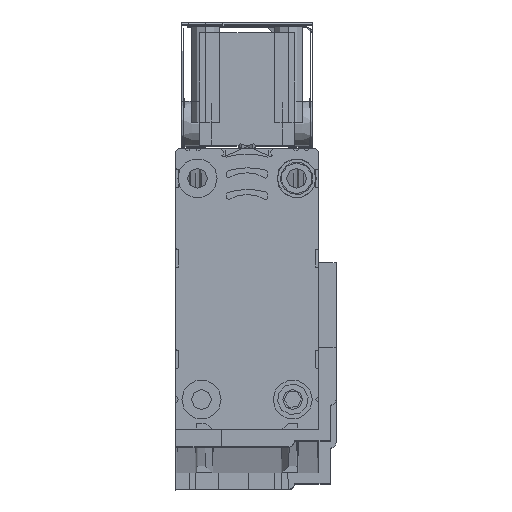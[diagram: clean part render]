
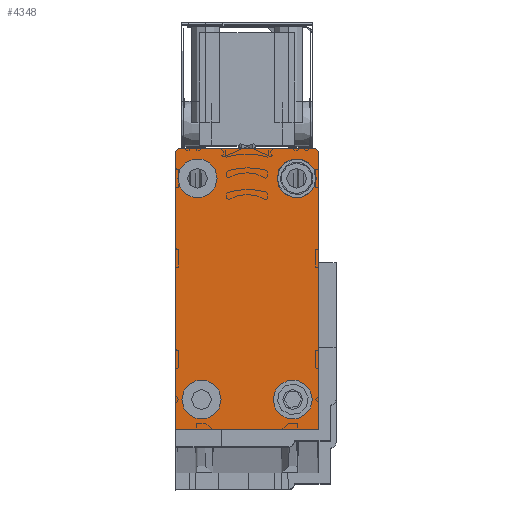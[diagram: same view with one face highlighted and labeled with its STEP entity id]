
A CAD part, top view. The second image highlights one B-rep face of the part: STEP entity #4348.
In plain terms, the highlighted planar face has unit normal (0, 0, 1).
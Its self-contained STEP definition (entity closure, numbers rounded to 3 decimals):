
#41 = ORIENTED_EDGE ( 'NONE', *, *, #3014, .T. ) ;
#96 = DIRECTION ( 'NONE',  ( -1., 0., 0. ) ) ;
#346 = AXIS2_PLACEMENT_3D ( 'NONE', #13049, #2171, #14868 ) ;
#455 = CARTESIAN_POINT ( 'NONE',  ( 5.984, -20.888, 3185. ) ) ;
#1192 = CARTESIAN_POINT ( 'NONE',  ( 5.984, 7.11, 3185. ) ) ;
#1397 = DIRECTION ( 'NONE',  ( 0., 1., 0. ) ) ;
#1407 = VERTEX_POINT ( 'NONE', #3420 ) ;
#1536 = CARTESIAN_POINT ( 'NONE',  ( -18.014, -20.888, 3185. ) ) ;
#1600 = AXIS2_PLACEMENT_3D ( 'NONE', #4167, #16871, #5972 ) ;
#1704 = CARTESIAN_POINT ( 'NONE',  ( -10.412, -15.887, 3185. ) ) ;
#1986 = AXIS2_PLACEMENT_3D ( 'NONE', #10508, #23225, #12334 ) ;
#2035 = LINE ( 'NONE', #21693, #11728 ) ;
#2088 = PLANE ( 'NONE',  #346 ) ;
#2171 = DIRECTION ( 'NONE',  ( 0., 0., 1. ) ) ;
#2451 = ORIENTED_EDGE ( 'NONE', *, *, #16979, .F. ) ;
#2935 = AXIS2_PLACEMENT_3D ( 'NONE', #13917, #3040, #15750 ) ;
#3014 = EDGE_CURVE ( 'NONE', #22902, #3305, #15438, .T. ) ;
#3040 = DIRECTION ( 'NONE',  ( 0., 0., -1. ) ) ;
#3125 = VECTOR ( 'NONE', #15832, 1000. ) ;
#3212 = CARTESIAN_POINT ( 'NONE',  ( 2.335, 21.401, 3185. ) ) ;
#3305 = VERTEX_POINT ( 'NONE', #3796 ) ;
#3370 = DIRECTION ( 'NONE',  ( 1., 0., 0. ) ) ;
#3420 = CARTESIAN_POINT ( 'NONE',  ( -18.014, 25.871, 3185. ) ) ;
#3741 = CARTESIAN_POINT ( 'NONE',  ( -17.667, 21.401, 3185. ) ) ;
#3796 = CARTESIAN_POINT ( 'NONE',  ( -11.063, 21.401, 3185. ) ) ;
#3893 = DIRECTION ( 'NONE',  ( 0., 0., 1. ) ) ;
#3982 = VERTEX_POINT ( 'NONE', #23348 ) ;
#4167 = CARTESIAN_POINT ( 'NONE',  ( -13.714, -15.887, 3185. ) ) ;
#4348 = ADVANCED_FACE ( 'NONE', ( #19734, #10667, #5798, #15501, #14904 ), #2088, .T. ) ;
#4451 = EDGE_CURVE ( 'NONE', #11523, #14620, #22320, .T. ) ;
#4608 = CIRCLE ( 'NONE', #10309, 0.5 ) ;
#4724 = EDGE_CURVE ( 'NONE', #3982, #7727, #14876, .T. ) ;
#4762 = VERTEX_POINT ( 'NONE', #19557 ) ;
#5013 = ORIENTED_EDGE ( 'NONE', *, *, #4724, .T. ) ;
#5025 = DIRECTION ( 'NONE',  ( -1., 0., 0. ) ) ;
#5073 = CIRCLE ( 'NONE', #9489, 3.302 ) ;
#5076 = EDGE_LOOP ( 'NONE', ( #7415, #14361, #14530, #21740, #2451, #12302, #5013 ) ) ;
#5314 = CARTESIAN_POINT ( 'NONE',  ( 2.335, 21.401, 3185. ) ) ;
#5503 = EDGE_CURVE ( 'NONE', #1407, #3982, #2035, .T. ) ;
#5774 = VECTOR ( 'NONE', #3370, 1000. ) ;
#5798 = FACE_BOUND ( 'NONE', #17883, .T. ) ;
#5805 = EDGE_CURVE ( 'NONE', #17268, #19578, #4608, .T. ) ;
#5972 = DIRECTION ( 'NONE',  ( -1., 0., 0. ) ) ;
#6070 = CARTESIAN_POINT ( 'NONE',  ( -0.967, 21.401, 3185. ) ) ;
#6178 = DIRECTION ( 'NONE',  ( 0., 0., -1. ) ) ;
#6520 = CARTESIAN_POINT ( 'NONE',  ( 5.485, 26.371, 3185. ) ) ;
#6663 = CARTESIAN_POINT ( 'NONE',  ( 5.485, 26.371, 3185. ) ) ;
#7164 = DIRECTION ( 'NONE',  ( -1., 0., 0. ) ) ;
#7175 = EDGE_CURVE ( 'NONE', #8742, #16571, #22164, .T. ) ;
#7222 = LINE ( 'NONE', #6520, #12063 ) ;
#7415 = ORIENTED_EDGE ( 'NONE', *, *, #14764, .T. ) ;
#7727 = VERTEX_POINT ( 'NONE', #455 ) ;
#7900 = CARTESIAN_POINT ( 'NONE',  ( -13.714, -15.887, 3185. ) ) ;
#8069 = VECTOR ( 'NONE', #1397, 1000. ) ;
#8338 = CARTESIAN_POINT ( 'NONE',  ( -17.017, -15.887, 3185. ) ) ;
#8575 = CARTESIAN_POINT ( 'NONE',  ( 5.984, -20.888, 3185. ) ) ;
#8659 = DIRECTION ( 'NONE',  ( 0., 0., -1. ) ) ;
#8742 = VERTEX_POINT ( 'NONE', #6070 ) ;
#9489 = AXIS2_PLACEMENT_3D ( 'NONE', #19501, #8659, #21370 ) ;
#9572 = EDGE_LOOP ( 'NONE', ( #23282, #21022 ) ) ;
#9683 = CIRCLE ( 'NONE', #19703, 3.302 ) ;
#9723 = DIRECTION ( 'NONE',  ( -1., 0., 0. ) ) ;
#10203 = CARTESIAN_POINT ( 'NONE',  ( 4.978, -15.887, 3185. ) ) ;
#10309 = AXIS2_PLACEMENT_3D ( 'NONE', #14758, #3893, #16597 ) ;
#10508 = CARTESIAN_POINT ( 'NONE',  ( -17.514, 25.871, 3185. ) ) ;
#10667 = FACE_BOUND ( 'NONE', #13073, .T. ) ;
#10815 = DIRECTION ( 'NONE',  ( 0., -1., 0. ) ) ;
#11001 = DIRECTION ( 'NONE',  ( 0., 0., -1. ) ) ;
#11523 = VERTEX_POINT ( 'NONE', #1704 ) ;
#11728 = VECTOR ( 'NONE', #10815, 1000. ) ;
#11903 = EDGE_CURVE ( 'NONE', #14620, #11523, #9683, .T. ) ;
#12063 = VECTOR ( 'NONE', #17411, 1000. ) ;
#12153 = VERTEX_POINT ( 'NONE', #10203 ) ;
#12302 = ORIENTED_EDGE ( 'NONE', *, *, #5503, .T. ) ;
#12333 = LINE ( 'NONE', #8575, #8069 ) ;
#12334 = DIRECTION ( 'NONE',  ( 0., 1., 0. ) ) ;
#12773 = CIRCLE ( 'NONE', #2935, 3.302 ) ;
#12934 = AXIS2_PLACEMENT_3D ( 'NONE', #5314, #18035, #7164 ) ;
#13049 = CARTESIAN_POINT ( 'NONE',  ( -18.014, -20.888, 3185. ) ) ;
#13073 = EDGE_LOOP ( 'NONE', ( #21565, #14097 ) ) ;
#13280 = CARTESIAN_POINT ( 'NONE',  ( 5.637, 21.401, 3185. ) ) ;
#13917 = CARTESIAN_POINT ( 'NONE',  ( 1.676, -15.887, 3185. ) ) ;
#14097 = ORIENTED_EDGE ( 'NONE', *, *, #17166, .T. ) ;
#14353 = AXIS2_PLACEMENT_3D ( 'NONE', #3212, #15932, #5025 ) ;
#14361 = ORIENTED_EDGE ( 'NONE', *, *, #16939, .T. ) ;
#14530 = ORIENTED_EDGE ( 'NONE', *, *, #5805, .T. ) ;
#14620 = VERTEX_POINT ( 'NONE', #8338 ) ;
#14758 = CARTESIAN_POINT ( 'NONE',  ( 5.485, 25.871, 3185. ) ) ;
#14764 = EDGE_CURVE ( 'NONE', #7727, #4762, #12333, .T. ) ;
#14868 = DIRECTION ( 'NONE',  ( -1., 0., 0. ) ) ;
#14876 = LINE ( 'NONE', #1536, #5774 ) ;
#14904 = FACE_OUTER_BOUND ( 'NONE', #5076, .T. ) ;
#14951 = VERTEX_POINT ( 'NONE', #21661 ) ;
#15438 = CIRCLE ( 'NONE', #22607, 3.302 ) ;
#15501 = FACE_BOUND ( 'NONE', #9572, .T. ) ;
#15750 = DIRECTION ( 'NONE',  ( -1., 0., 0. ) ) ;
#15832 = DIRECTION ( 'NONE',  ( 0., 1., 0. ) ) ;
#15932 = DIRECTION ( 'NONE',  ( 0., 0., -1. ) ) ;
#16363 = CARTESIAN_POINT ( 'NONE',  ( 5.984, 25.871, 3185. ) ) ;
#16397 = ORIENTED_EDGE ( 'NONE', *, *, #21908, .T. ) ;
#16571 = VERTEX_POINT ( 'NONE', #13280 ) ;
#16597 = DIRECTION ( 'NONE',  ( 0., 1., 0. ) ) ;
#16871 = DIRECTION ( 'NONE',  ( 0., 0., -1. ) ) ;
#16892 = EDGE_CURVE ( 'NONE', #14951, #12153, #12773, .T. ) ;
#16939 = EDGE_CURVE ( 'NONE', #4762, #17268, #17642, .T. ) ;
#16979 = EDGE_CURVE ( 'NONE', #1407, #18385, #21882, .T. ) ;
#17000 = EDGE_LOOP ( 'NONE', ( #41, #16397 ) ) ;
#17089 = CARTESIAN_POINT ( 'NONE',  ( -14.365, 21.401, 3185. ) ) ;
#17166 = EDGE_CURVE ( 'NONE', #16571, #8742, #22152, .T. ) ;
#17268 = VERTEX_POINT ( 'NONE', #16363 ) ;
#17411 = DIRECTION ( 'NONE',  ( -1., 0., 0. ) ) ;
#17642 = LINE ( 'NONE', #1192, #3125 ) ;
#17883 = EDGE_LOOP ( 'NONE', ( #23567, #23295 ) ) ;
#18035 = DIRECTION ( 'NONE',  ( 0., 0., -1. ) ) ;
#18385 = VERTEX_POINT ( 'NONE', #20417 ) ;
#18876 = DIRECTION ( 'NONE',  ( -1., 0., 0. ) ) ;
#19501 = CARTESIAN_POINT ( 'NONE',  ( 1.676, -15.887, 3185. ) ) ;
#19557 = CARTESIAN_POINT ( 'NONE',  ( 5.984, 7.11, 3185. ) ) ;
#19578 = VERTEX_POINT ( 'NONE', #6663 ) ;
#19703 = AXIS2_PLACEMENT_3D ( 'NONE', #7900, #20599, #9723 ) ;
#19734 = FACE_BOUND ( 'NONE', #17000, .T. ) ;
#20417 = CARTESIAN_POINT ( 'NONE',  ( -17.514, 26.371, 3185. ) ) ;
#20547 = EDGE_CURVE ( 'NONE', #12153, #14951, #5073, .T. ) ;
#20599 = DIRECTION ( 'NONE',  ( 0., 0., -1. ) ) ;
#20639 = AXIS2_PLACEMENT_3D ( 'NONE', #21892, #11001, #96 ) ;
#21022 = ORIENTED_EDGE ( 'NONE', *, *, #4451, .T. ) ;
#21370 = DIRECTION ( 'NONE',  ( -1., 0., 0. ) ) ;
#21520 = CIRCLE ( 'NONE', #20639, 3.302 ) ;
#21565 = ORIENTED_EDGE ( 'NONE', *, *, #7175, .T. ) ;
#21661 = CARTESIAN_POINT ( 'NONE',  ( -1.626, -15.887, 3185. ) ) ;
#21693 = CARTESIAN_POINT ( 'NONE',  ( -18.014, 25.871, 3185. ) ) ;
#21740 = ORIENTED_EDGE ( 'NONE', *, *, #23221, .T. ) ;
#21882 = CIRCLE ( 'NONE', #1986, 0.5 ) ;
#21892 = CARTESIAN_POINT ( 'NONE',  ( -14.365, 21.401, 3185. ) ) ;
#21908 = EDGE_CURVE ( 'NONE', #3305, #22902, #21520, .T. ) ;
#22152 = CIRCLE ( 'NONE', #12934, 3.302 ) ;
#22164 = CIRCLE ( 'NONE', #14353, 3.302 ) ;
#22320 = CIRCLE ( 'NONE', #1600, 3.302 ) ;
#22607 = AXIS2_PLACEMENT_3D ( 'NONE', #17089, #6178, #18876 ) ;
#22902 = VERTEX_POINT ( 'NONE', #3741 ) ;
#23221 = EDGE_CURVE ( 'NONE', #19578, #18385, #7222, .T. ) ;
#23225 = DIRECTION ( 'NONE',  ( 0., 0., -1. ) ) ;
#23282 = ORIENTED_EDGE ( 'NONE', *, *, #11903, .T. ) ;
#23295 = ORIENTED_EDGE ( 'NONE', *, *, #20547, .T. ) ;
#23348 = CARTESIAN_POINT ( 'NONE',  ( -18.014, -20.888, 3185. ) ) ;
#23567 = ORIENTED_EDGE ( 'NONE', *, *, #16892, .T. ) ;
